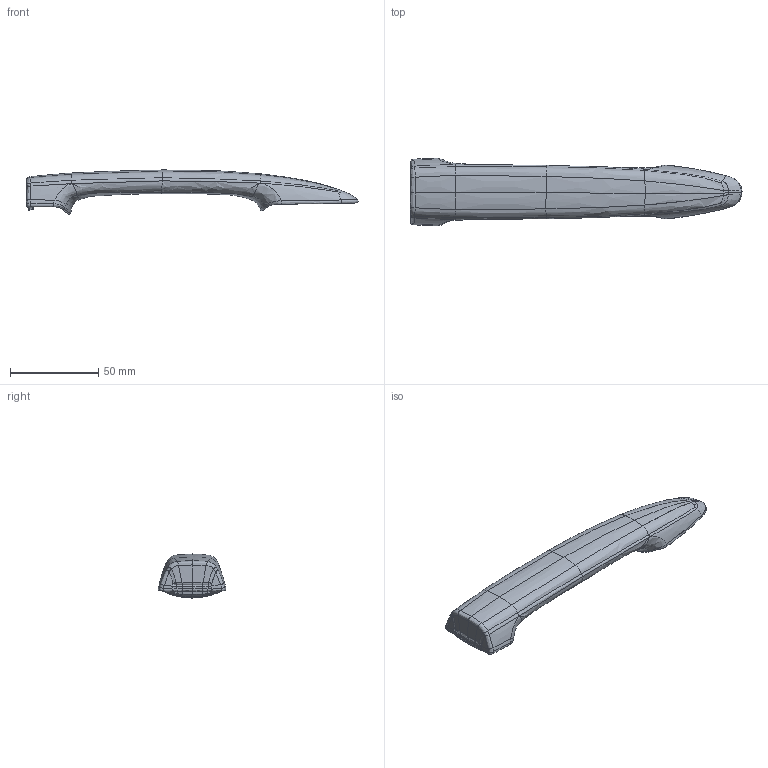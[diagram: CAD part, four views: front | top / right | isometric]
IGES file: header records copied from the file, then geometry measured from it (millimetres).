
Start section: Ideas-Freeform IGES Translation
Global section: file name: C:\Temp\Tuergriff\Tueraussengriff_ausger.igs; native system: SDRC Imageware 9; preprocessor: IGES PreProcessor 3.0; author: tobias rapp; organization: carl zeiss 3d metrology services; date: 1060519.095210; units: millimetre
Bounding box: 188.38 x 38.38 x 25.01 mm (x, y, z)
Surface area: 13501.8 mm2 (no closed solid volume)
Topology: 0 solids, 0 shells, 144 faces, 576 edges, 576 vertices
Faces by surface type: bspline 144
